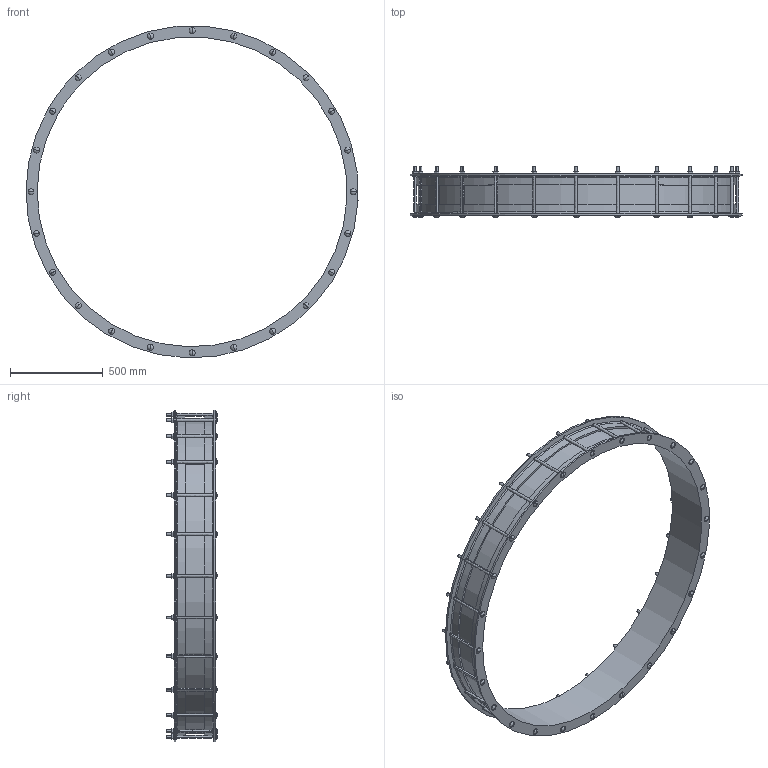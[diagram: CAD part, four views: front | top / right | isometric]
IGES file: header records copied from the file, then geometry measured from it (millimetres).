
Start section:  PTC IGES file: VJC_1668.igs
Global section: file name: VJC_1668.igs; native system: Creo Parametric by PTC Inc.; preprocessor: 2016130; author: mfairey; organization: Unknown; date: 20181206.154958; units: millimetre
Bounding box: 1790.85 x 275.68 x 1789.19 mm (x, y, z)
Surface area: 3729362.8 mm2 (no closed solid volume)
Topology: 0 solids, 0 shells, 568 faces, 3088 edges, 3040 vertices
Faces by surface type: revolution 348, bspline 220
